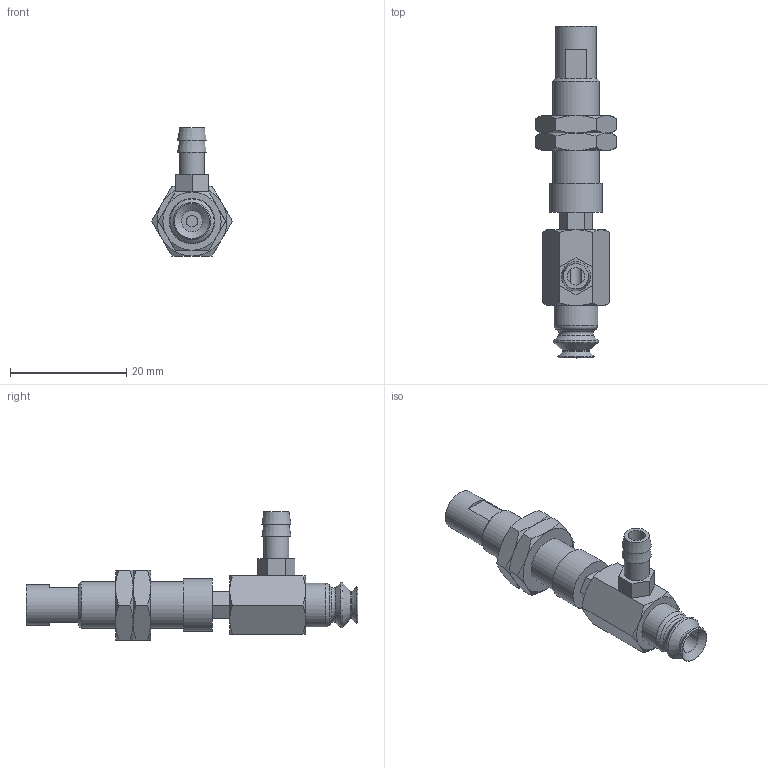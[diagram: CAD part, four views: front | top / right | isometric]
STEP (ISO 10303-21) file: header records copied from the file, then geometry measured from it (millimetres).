
FILE_DESCRIPTION(('STEP AP203'),'1');
FILE_NAME('-T.stp','2025-04-24T05:27:32',(' '),(' '),'Spatial InterOp 3D',' ',' ');
FILE_SCHEMA(('CONFIG_CONTROL_DESIGN'));
Length unit declared in the file: millimetre
Products named in the file (7): BNABPJYH-6-3-※-T; CONNECTOR_H-6-3; NAPJH-6-3-NUT; NAPJTH-6-3-FBODY; NAPJTH-6-3-MBODY; BPJG-6-※; T
Assembly tree (7 placements, depth 2):
  BNABPJYH-6-3-※-T
    CONNECTOR_H-6-3
    NAPJH-6-3-NUT  x2
    NAPJTH-6-3-FBODY
    NAPJTH-6-3-MBODY
    BPJG-6-※
    T
Bounding box: 13.86 x 57 x 22 mm (x, y, z)
Volume: 3463.1 mm3; surface area: 4423.5 mm2
Topology: 7 solids, 7 shells, 159 faces, 345 edges, 211 vertices
Faces by surface type: plane 73, cone 57, cylinder 18, torus 11
Full cylindrical faces by diameter (mm): 2 x1, 3 x1, 3.64 x1, 4 x2, 4.134 x2, 4.3 x1, 5 x2, 6 x2, 7 x1, 7.188 x2, 7.5 x1, 8 x1, 9 x1
Entity records: 3966 total; most frequent: CARTESIAN_POINT 904, DIRECTION 566, ORIENTED_EDGE 480, EDGE_CURVE 240, AXIS2_PLACEMENT_3D 236, EDGE_LOOP 204, VERTEX_POINT 172, FACE_OUTER_BOUND 164
